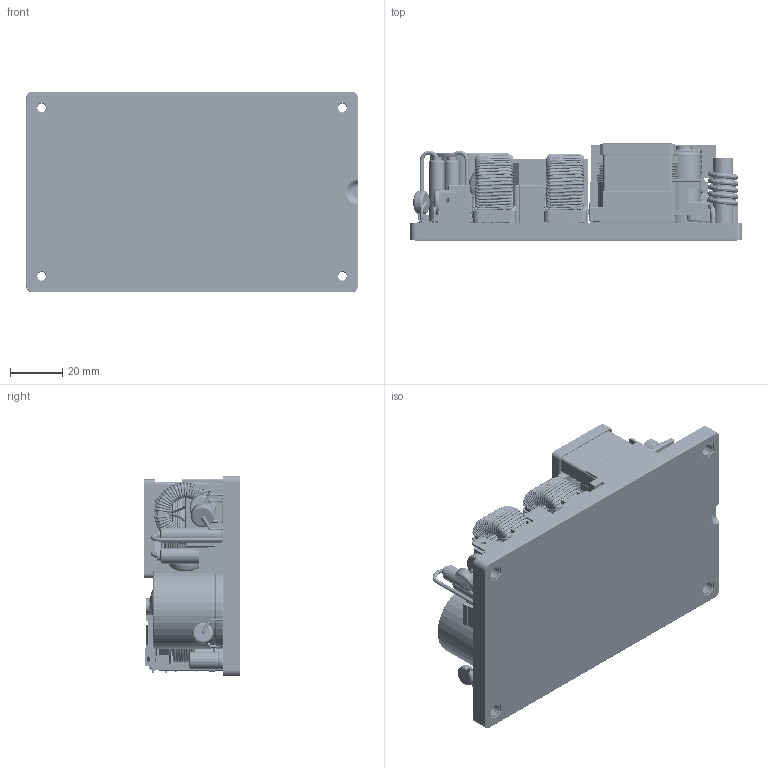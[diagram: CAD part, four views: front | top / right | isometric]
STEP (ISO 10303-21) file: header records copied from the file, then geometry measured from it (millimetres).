
FILE_DESCRIPTION (( 'STEP AP214' ), '1' );
FILE_NAME ('CUS-400M-xxVx-Xy.STEP', '2020-04-16T06:51:06', ( '' ), ( '' ), 'SwSTEP 2.0', 'SolidWorks 2019', '' );
FILE_SCHEMA (( 'AUTOMOTIVE_DESIGN' ));
Length unit declared in the file: millimetre
Products named in the file (98): 12947_0.1; A40 input fuse short wire; SOP4-long; CAPACITORS DIPPED 10mm PITCH_12250; R1210; 240180; 220563SMA; CAPACITORS ELECTROLYTIC 10mm PITCH_61085; SOT23; 22-04-1021; 1598M; M4 X PH COMBI SEMS SCREW_200020; C0603; 283436; 240204; SO-7; 230344; A40 input fuse sleeve; 230403; SSOP4; 283717; 230359; SO-7 no pin 7; 230359 WINDING; 240193; dpak; 250236; SO-8; LSOP4; 66751; EF-16 BOBBIN; 240179; 230342; C1206; FUSE - BOX_200140; CUS-400M-xxVx-Xy; SOT323; 200268; A40 INPUT FUSE; 33711 WINDING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
Assembly tree (397 placements, depth 5):
  CUS-400M-xxVx-Xy
    220665
      220665SMA
        220665
        C0603  x40
        C0805  x5
        C1206  x32
        1999M  x5
        1598M  x4
        SOD323  x13
        SOT23  x5
        SO-16_Standard
        SO-7
        SO-8  x2
        R0603  x72
        R0805  x32
        R1206
        R2512_Domyslna  x4
        SOT323  x6
        SOP4-long  x2
        SOT-23-5  x4
        R1210  x4
        SOD 123  x2
        SOT223  x2
        dpak  x13
        SSOP4
        60652M
      CAPACITORS DIPPED 10mm PITCH_15084
      CAPACITORS DIPPED 10mm PITCH_16010  x3
      200218
      23578
      283436
        A40 INPUT FUSE
        A40 input fuse ends  x2
        A40 input fuse short wire
        283436
        A40 input fuse sleeve
        A40 Fuse big sleeving 5.5 dia
        A40 Fuse big sleeving end
        A40 Fuse big sleeving end top
      283436
        A40 INPUT FUSE
        A40 input fuse ends  x2
        A40 input fuse short wire
        283436
        A40 input fuse sleeve
        A40 Fuse big sleeving 5.5 dia
        A40 Fuse big sleeving end
        A40 Fuse big sleeving end top
      CAPACITORS BOX 15mm PITCH_23344  x3
      230184
        66751
        1604L
        230184 WINDING 1
        230184 WINDING 2
      230184
        66751
        1604L
        230184 WINDING 1
        230184 WINDING 2
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Bounding box: 127.6 x 37.15 x 77.2 mm (x, y, z)
Volume: 135225.3 mm3; surface area: 166209.1 mm2
Topology: 446 solids, 449 shells, 17628 faces, 42753 edges, 26258 vertices
Faces by surface type: plane 10658, cylinder 3470, bspline 1959, torus 930, sphere 345, cone 266
Entity records: 345960 total; most frequent: CARTESIAN_POINT 130546, ORIENTED_EDGE 37442, DIRECTION 37089, EDGE_CURVE 18727, AXIS2_PLACEMENT_3D 13373, VERTEX_POINT 11394, LINE 10343, VECTOR 10343
